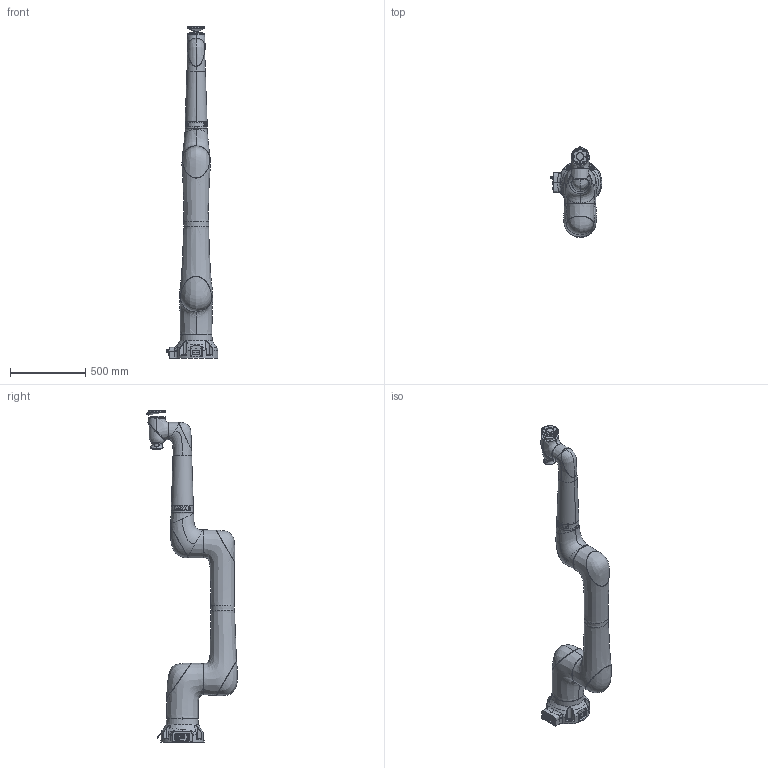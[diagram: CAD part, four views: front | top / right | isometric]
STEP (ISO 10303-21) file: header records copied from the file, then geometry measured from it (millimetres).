
FILE_DESCRIPTION(/* description */ (''),/* implementation_level */ '2;1');
FILE_NAME(/* name */ 'XMC20-R1650 简化模型20230918.stp',/* time_stamp */ '2023-09-18T16:14:30+08:00',/* author */ (''),/* organization */ (''),/* preprocessor_version */ 'ST-DEVELOPER v16',/* originating_system */ 'SIEMENS PLM Software NX 10.0',/* authorisation */ '');
FILE_SCHEMA (('CONFIG_CONTROL_DESIGN'));
Products named in the file (8): XMC20-xiaobihou-B; XMC20-base-A; XMC20-shuchu-A; XMC20-shouwan-A; XMC20-xiaobiqian-A; XMC20-dabi-A; XMC20-yao-A; XMC20-R1650 简化模型
Assembly tree (7 placements, depth 2):
  XMC20-R1650 简化模型
    XMC20-yao-A
    XMC20-dabi-A
    XMC20-xiaobiqian-A
    XMC20-shouwan-A
    XMC20-shuchu-A
    XMC20-base-A
    XMC20-xiaobihou-B
Bounding box: 345 x 604.42 x 2208 mm (x, y, z)
Volume: 68638428.4 mm3; surface area: 2025984.8 mm2
Topology: 7 solids, 52 shells, 3724 faces, 9789 edges, 6259 vertices
Faces by surface type: plane 1858, cylinder 807, bspline 477, cone 264, extrusion 152, torus 108, sphere 43, revolution 15
Full cylindrical faces by diameter (mm): 2.05 x2, 2.5 x4, 3.3 x13, 5 x12, 5.5 x4, 6 x1, 6.8 x6, 8 x1, 13.5 x4, 14 x1, 18 x1, 20.05 x1, 24 x4, 27.9 x1, 50 x1, 90 x4, 114 x3, 120 x2, 140 x2, 145 x1, 160 x4
Entity records: 212607 total; most frequent: CARTESIAN_POINT 125877, ORIENTED_EDGE 18926, DIRECTION 15583, EDGE_CURVE 9463, VERTEX_POINT 6180, VECTOR 5272, AXIS2_PLACEMENT_3D 5148, LINE 5120
